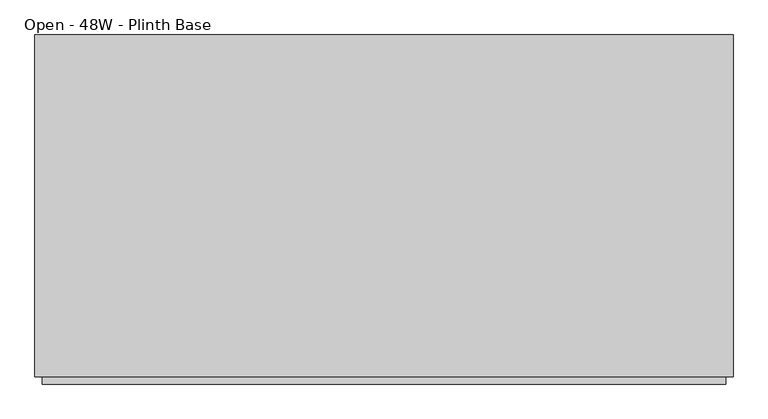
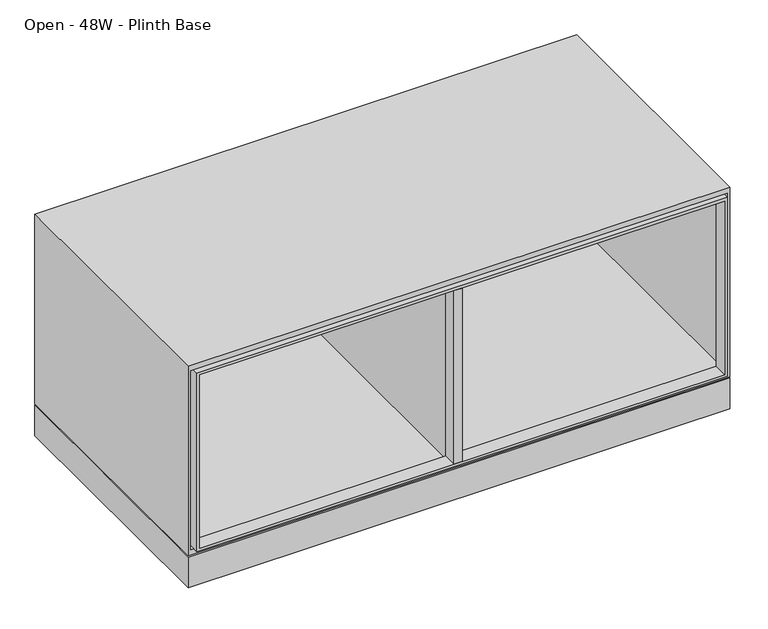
"""IFC4 building model written with IfcOpenShell, lengths in millimetres: furniture geometry, Steelcase Coalesse - Exponents - Storage - Credenza - 21H : Open - 48W - Plinth Base."""

import ifcopenshell
import ifcopenshell.guid

model = None  # the IFC model being written
_history = None  # IfcOwnerHistory: only IFC2X3 demands one
_inside = {}  # id of a spatial element -> (the spatial element, [elements in it])
_under = {}  # id of a project, library or spatial element -> (it, [spatial elements below it])
_declared = {}  # id of a project -> (the project, [libraries it declares])
_typed = {}  # id of a type object -> (the type object, [elements of that type])
_made_of = {}  # id of a material, layer set ... -> (it, [elements and type objects made of it])


def new_model(schema):
    """Start an empty IFC model of exactly this schema.

    Asked for "IFC4X3", IfcOpenShell would pick the latest addendum, in which some entities
    have other attributes; the version numbers below select the first issue.
    IFC2X3 requires an IfcOwnerHistory on every rooted entity: one is made here for all.
    """
    global model, _history
    if schema == "IFC4X3":
        model = ifcopenshell.file(schema_version=(4, 3, 0, 0))
    else:
        model = ifcopenshell.file(schema=schema)
    _inside.clear()
    _under.clear()
    _declared.clear()
    _typed.clear()
    _made_of.clear()
    _history = None
    if model.schema == "IFC2X3":
        org = make("IfcOrganization", Name="unknown")
        user = make(
            "IfcPersonAndOrganization",
            ThePerson=make("IfcPerson", FamilyName="unknown"),
            TheOrganization=org,
        )
        app = make(
            "IfcApplication",
            ApplicationDeveloper=org,
            Version="unknown",
            ApplicationFullName="unknown",
            ApplicationIdentifier="unknown",
        )
        _history = make(
            "IfcOwnerHistory",
            OwningUser=user,
            OwningApplication=app,
            ChangeAction="ADDED",
            CreationDate=0,
        )
    return model


def make(cls, **values):
    """One entity of the class cls with the attributes given. An attribute that is None is left unset."""
    return model.create_entity(
        cls, **{name: value for name, value in values.items() if value is not None}
    )


def rooted(cls, **values):
    """An entity with a GlobalId (a new one), such as an element, a storey or a relation."""
    return make(cls, GlobalId=ifcopenshell.guid.new(), OwnerHistory=_history, **values)


def si_unit(unit_type, name, prefix=None):
    """IfcSIUnit, for example si_unit("LENGTHUNIT", "METRE", prefix="MILLI")."""
    return make("IfcSIUnit", UnitType=unit_type, Prefix=prefix, Name=name)


def assignment(units):
    """IfcUnitAssignment: the units of a project."""
    return None if units is None else make("IfcUnitAssignment", Units=units)


def point(xyz):
    """IfcCartesianPoint."""
    return None if xyz is None else make("IfcCartesianPoint", Coordinates=xyz)


def direction(xyz):
    """IfcDirection."""
    return None if xyz is None else make("IfcDirection", DirectionRatios=xyz)


def frame(location, z_axis=None, x_axis=None):
    """IfcAxis2Placement3D, a coordinate frame: its origin and axes. An axis left out is left unset."""
    return make(
        "IfcAxis2Placement3D",
        Location=point(location),
        Axis=direction(z_axis),
        RefDirection=direction(x_axis),
    )


def frame_2d(location, x_axis=None):
    """IfcAxis2Placement2D, a coordinate frame in the plane: its origin and x axis."""
    return make(
        "IfcAxis2Placement2D", Location=point(location), RefDirection=direction(x_axis)
    )


def origin():
    """The frame at (0, 0, 0) with its axes left unset."""
    return frame((0.0, 0.0, 0.0))


def origin_with_axes():
    """The frame at (0, 0, 0) with the z axis (0, 0, 1) and the x axis (1, 0, 0) written out."""
    return frame((0.0, 0.0, 0.0), z_axis=(0.0, 0.0, 1.0), x_axis=(1.0, 0.0, 0.0))


def place(relative_to, where):
    """IfcLocalPlacement: puts the frame where relative to a parent placement (None: the world)."""
    return make(
        "IfcLocalPlacement", PlacementRelTo=relative_to, RelativePlacement=where
    )


def context(
    kind, dimensions, precision=None, world=None, true_north=None, identifier=None
):
    """IfcGeometricRepresentationContext, for example the 3D "Model" context."""
    return make(
        "IfcGeometricRepresentationContext",
        ContextIdentifier=identifier,
        ContextType=kind,
        CoordinateSpaceDimension=dimensions,
        Precision=precision,
        WorldCoordinateSystem=world,
        TrueNorth=true_north,
    )


def project(units=None, contexts=None):
    """IfcProject with its units and contexts."""
    return rooted(
        "IfcProject",
        Name="project",
        RepresentationContexts=contexts,
        UnitsInContext=assignment(units),
    )


def spatial(cls, under=None, at=None, **own):
    """A site, building, storey or space (cls), placed at a placement, below another one or the project."""
    s = rooted(cls, ObjectPlacement=at, **own)
    if under is not None:
        _under.setdefault(under.id(), (under, []))[1].append(s)
    return s


def polyline(points):
    """IfcPolyline through the points."""
    return make("IfcPolyline", Points=[point(p) for p in points])


def circle_curve(where, radius):
    """IfcCircle in the frame where."""
    return make("IfcCircle", Position=where, Radius=radius)


def trimmed(basis, trim1, trim2, sense, master):
    """IfcTrimmedCurve: the piece of a basis curve between two trims."""
    return make(
        "IfcTrimmedCurve",
        BasisCurve=basis,
        Trim1=trim1,
        Trim2=trim2,
        SenseAgreement=sense,
        MasterRepresentation=master,
    )


def segment(curve, same_sense, transition):
    """IfcCompositeCurveSegment."""
    return make(
        "IfcCompositeCurveSegment",
        Transition=transition,
        SameSense=same_sense,
        ParentCurve=curve,
    )


def composite_curve(segments, self_intersect=None):
    """IfcCompositeCurve: segments joined end to end."""
    return make("IfcCompositeCurve", Segments=segments, SelfIntersect=self_intersect)


def outline(outer, holes=None, kind="AREA"):
    """IfcArbitraryClosedProfileDef: a profile drawn as a closed curve; with holes, ...WithVoids."""
    if holes is None:
        return make("IfcArbitraryClosedProfileDef", ProfileType=kind, OuterCurve=outer)
    return make(
        "IfcArbitraryProfileDefWithVoids",
        ProfileType=kind,
        OuterCurve=outer,
        InnerCurves=holes,
    )


def extrude(swept, where, along, depth):
    """IfcExtrudedAreaSolid: the profile swept, set in the frame where, extruded along a direction by depth."""
    return make(
        "IfcExtrudedAreaSolid",
        SweptArea=swept,
        Position=where,
        ExtrudedDirection=direction(along),
        Depth=depth,
    )


def faces_of(points, faces, orient=None, outer=None):
    """IfcFace entities. A face is a list of loops; a loop is a list of indices into points, from 0.

    orient and outer hold one flag for each loop. By default every Orientation is true, the
    first loop of a face is its IfcFaceOuterBound and the others are IfcFaceBound.
    """
    made = []
    for i, loops in enumerate(faces):
        bounds = []
        for j, loop in enumerate(loops):
            is_outer = j == 0 if outer is None else outer[i][j]
            bounds.append(
                make(
                    "IfcFaceOuterBound" if is_outer else "IfcFaceBound",
                    Bound=make("IfcPolyLoop", Polygon=[points[k] for k in loop]),
                    Orientation=True if orient is None else orient[i][j],
                )
            )
        made.append(make("IfcFace", Bounds=bounds))
    return made


def faceted_brep(points, faces, orient=None, outer=None, voids=None):
    """IfcFacetedBrep: a solid bounded by flat faces; with voids (closed shells), ...WithVoids."""
    shared = [point(p) for p in points]
    hull = make("IfcClosedShell", CfsFaces=faces_of(shared, faces, orient, outer))
    if voids is None:
        return make("IfcFacetedBrep", Outer=hull)
    return make(
        "IfcFacetedBrepWithVoids",
        Outer=hull,
        Voids=[
            make(cls, CfsFaces=faces_of(shared, fs, o, b)) for cls, fs, o, b in voids
        ],
    )


def shape(context_of_items, identifier, shape_type, items):
    """IfcShapeRepresentation: the items that make up one representation, for example the "Body"."""
    return make(
        "IfcShapeRepresentation",
        ContextOfItems=context_of_items,
        RepresentationIdentifier=identifier,
        RepresentationType=shape_type,
        Items=items,
    )


def source(mapping_origin, context_of_items, identifier, shape_type, items):
    """IfcRepresentationMap: a shape defined once, which mapped items show again and again."""
    return make(
        "IfcRepresentationMap",
        MappingOrigin=mapping_origin,
        MappedRepresentation=shape(context_of_items, identifier, shape_type, items),
    )


def transform(
    local_origin,
    x_axis=None,
    y_axis=None,
    z_axis=None,
    scale=None,
    scale2=None,
    scale3=None,
    uniform=True,
):
    """IfcCartesianTransformationOperator3D, or its non-uniform kind. x_axis, y_axis, z_axis: its Axis1, 2, 3."""
    if uniform:
        return make(
            "IfcCartesianTransformationOperator3D",
            Axis1=direction(x_axis),
            Axis2=direction(y_axis),
            LocalOrigin=point(local_origin),
            Scale=scale,
            Axis3=direction(z_axis),
        )
    return make(
        "IfcCartesianTransformationOperator3DnonUniform",
        Axis1=direction(x_axis),
        Axis2=direction(y_axis),
        LocalOrigin=point(local_origin),
        Scale=scale,
        Axis3=direction(z_axis),
        Scale2=scale2,
        Scale3=scale3,
    )


def mapped(mapping_source, mapping_target):
    """IfcMappedItem: shows the shape of a source again, moved by a transform."""
    return make(
        "IfcMappedItem", MappingSource=mapping_source, MappingTarget=mapping_target
    )


def made_of(thing, what):
    """Note that an element or type object is made of a material, layer set ...; save() writes the relation."""
    if what is not None:
        _made_of.setdefault(what.id(), (what, []))[1].append(thing)
    return thing


def element(
    cls,
    number,
    at=None,
    inside=None,
    cuts=None,
    type_object=None,
    material=None,
    context=None,
    identifier="Body",
    shape_type=None,
    held_by="IfcProductDefinitionShape",
    body=None,
    shapes=None,
    **own,
):
    """One element of the class cls, such as IfcWall. Its Tag is "e" and its number.

    at: its placement. inside: the storey or other place that contains it. cuts: it is an
    opening in that element (IfcRelVoidsElement). A single representation is given by context,
    identifier, shape_type and body (its items); several are given by shapes. held_by: the class
    of the entity that holds the representations. save() writes the other relations.
    """
    e = rooted(cls, Tag="e%d" % number, ObjectPlacement=at, **own)
    if body is not None:
        shapes = [shape(context, identifier, shape_type, body)]
    if shapes is not None:
        e.Representation = make(held_by, Representations=shapes)
    if inside is not None:
        _inside.setdefault(inside.id(), (inside, []))[1].append(e)
    if cuts is not None:
        rooted(
            "IfcRelVoidsElement", RelatingBuildingElement=cuts, RelatedOpeningElement=e
        )
    if type_object is not None:
        _typed.setdefault(type_object.id(), (type_object, []))[1].append(e)
    return made_of(e, material)


def aggregate(whole, parts):
    """IfcRelAggregates: a whole, such as a stair, and the parts it consists of."""
    return rooted("IfcRelAggregates", RelatingObject=whole, RelatedObjects=parts)


def save(model, path):
    """Write the relations noted so far, then the file.

    IfcRelAggregates (storeys below a building ...), IfcRelContainedInSpatialStructure (elements
    in a storey), IfcRelDefinesByType, IfcRelAssociatesMaterial and IfcRelDeclares: one each for
    every whole, place, type object, material and project.
    """
    for whole, parts in _under.values():
        aggregate(whole, parts)
    for where, things in _inside.values():
        rooted(
            "IfcRelContainedInSpatialStructure",
            RelatedElements=things,
            RelatingStructure=where,
        )
    for kind, things in _typed.values():
        rooted("IfcRelDefinesByType", RelatedObjects=things, RelatingType=kind)
    for what, things in _made_of.values():
        rooted("IfcRelAssociatesMaterial", RelatedObjects=things, RelatingMaterial=what)
    for by, libraries in _declared.values():
        rooted("IfcRelDeclares", RelatingContext=by, RelatedDefinitions=libraries)
    model.write(path)


def open_48w_plinth_base_d9ffa93c(model_context):
    return source(origin(), model_context, "Body", "SolidModel", [
        faceted_brep([(6.35, 31.75, 520.7), (6.35, 31.75, 95.25), (6.35, 622.3, 95.25), (6.35, 622.3, 520.7), (1212.85, 622.3, 95.25), (1212.85, 622.3, 520.7), (1212.85, 31.75, 95.25), (1212.85, 31.75, 520.7), (0.0, 31.75, 82.55), (1219.2, 31.75, 82.55), (1219.2, 31.75, 533.4), (0.0, 31.75, 533.4), (1219.2, 628.65, 82.55), (1219.2, 628.65, 533.4), (0.0, 628.65, 82.55), (0.0, 628.65, 533.4)], [[[0, 1, 2, 3]], [[3, 2, 4, 5]], [[5, 4, 6, 7]], [[8, 9, 10, 11], [7, 6, 1, 0]], [[10, 9, 12, 13]], [[13, 12, 14, 15]], [[15, 14, 8, 11]], [[7, 0, 3, 5]], [[10, 13, 15, 11]], [[1, 6, 4, 2]], [[12, 9, 8, 14]]]),
        extrude(outline(polyline([(520.7, 1206.5), (520.7, 12.7), (95.25, 12.7), (95.25, 1206.5), (520.7, 1206.5)]), holes=[polyline([(514.35, 1200.15), (101.6, 1200.15), (101.6, 19.05), (514.35, 19.05), (514.35, 1200.15)])]), frame((0.0, 19.05, 0.0), z_axis=(0.0, 1.0, 0.0), x_axis=(0.0, 0.0, 1.0)), (0.0, 0.0, 1.0), 31.75),
        extrude(outline(composite_curve([segment(trimmed(circle_curve(frame_2d((19.05, 593.5667033)), 6.35), [point((12.7, 593.5667033))], [point((25.4, 593.5667033))], False, "CARTESIAN"), True, "CONTINUOUS"), segment(trimmed(circle_curve(frame_2d((19.05, 593.5667033)), 6.35), [point((25.4, 593.5667033))], [point((12.7, 593.5667033))], False, "CARTESIAN"), True, "CONTINUOUS")], self_intersect=False)), origin_with_axes(), (0.0, 0.0, 1.0), 6.35),
        extrude(outline(composite_curve([segment(trimmed(circle_curve(frame_2d((19.05, 66.7867854)), 6.35), [point((12.7, 66.7867854))], [point((25.4, 66.7867854))], False, "CARTESIAN"), True, "CONTINUOUS"), segment(trimmed(circle_curve(frame_2d((19.05, 66.7867854)), 6.35), [point((25.4, 66.7867854))], [point((12.7, 66.7867854))], False, "CARTESIAN"), True, "CONTINUOUS")], self_intersect=False)), origin_with_axes(), (0.0, 0.0, 1.0), 6.35),
        extrude(outline(composite_curve([segment(trimmed(circle_curve(frame_2d((1200.15, 593.5667033)), 6.35), [point((1193.8, 593.5667033))], [point((1206.5, 593.5667033))], False, "CARTESIAN"), True, "CONTINUOUS"), segment(trimmed(circle_curve(frame_2d((1200.15, 593.5667033)), 6.35), [point((1206.5, 593.5667033))], [point((1193.8, 593.5667033))], False, "CARTESIAN"), True, "CONTINUOUS")], self_intersect=False)), origin_with_axes(), (0.0, 0.0, 1.0), 6.35),
        extrude(outline(composite_curve([segment(trimmed(circle_curve(frame_2d((1200.15, 66.7867854)), 6.35), [point((1193.8, 66.7867854))], [point((1206.5, 66.7867854))], False, "CARTESIAN"), True, "CONTINUOUS"), segment(trimmed(circle_curve(frame_2d((1200.15, 66.7867854)), 6.35), [point((1206.5, 66.7867854))], [point((1193.8, 66.7867854))], False, "CARTESIAN"), True, "CONTINUOUS")], self_intersect=False)), origin_with_axes(), (0.0, 0.0, 1.0), 6.35),
        extrude(outline(polyline([(0.0, -19.05), (0.0, 0.0), (31.75, 0.0), (31.75, -19.05), (0.0, -19.05)])), frame((590.55, 19.05, 101.6), z_axis=(3.3608671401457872e-12, 0.0, 1.0), x_axis=(0.0, 1.0, 0.0)), (0.0, 0.0, 1.0), 412.75),
        extrude(outline(polyline([(1219.2, 628.65), (1219.2, 31.75), (0.0, 31.75), (0.0, 628.65), (1219.2, 628.65)]), holes=[polyline([(1200.15, 622.3), (19.05, 622.3), (19.05, 38.1), (1200.15, 38.1), (1200.15, 622.3)])]), frame((0.0, 0.0, 6.35), z_axis=(0.0, 0.0, 1.0), x_axis=(1.0, 0.0, 0.0)), (0.0, 0.0, 1.0), 73.4568),
        extrude(outline(polyline([(590.55, 609.6), (609.6, 609.6), (609.6, 50.8), (590.55, 50.8), (590.55, 609.6)])), frame((0.0, 0.0, 95.25), z_axis=(0.0, 0.0, 1.0), x_axis=(1.0, 0.0, 0.0)), (0.0, 0.0, 1.0), 425.45),
    ])


if __name__ == "__main__":
    model = new_model("IFC4")
    model_context = context("Model", 3, world=origin())
    ifc_project = project(units=[si_unit("LENGTHUNIT", "METRE", prefix="MILLI")], contexts=[model_context])
    site = spatial("IfcSite", under=ifc_project)
    building = spatial("IfcBuilding", under=site)
    placement = place(None, origin())
    open_48w_plinth_base_shape = open_48w_plinth_base_d9ffa93c(model_context)
    element("IfcFurniture", 1, ObjectType="Steelcase Coalesse - Exponents - Storage - Credenza - 21H : Open - 48W - Plinth Base", at=placement, inside=building, context=model_context, shape_type="MappedRepresentation", body=[
        mapped(open_48w_plinth_base_shape, transform((0.0, 0.0, 0.0), x_axis=(1.0, 0.0, 0.0), y_axis=(0.0, 1.0, 0.0), z_axis=(0.0, 0.0, 1.0))),
    ])
    save(model, "model.ifc")
